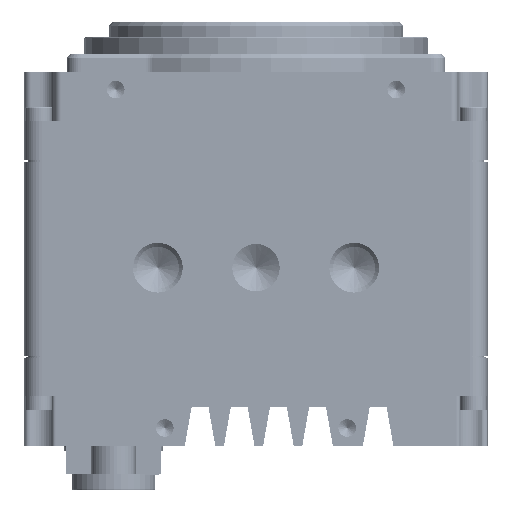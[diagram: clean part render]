
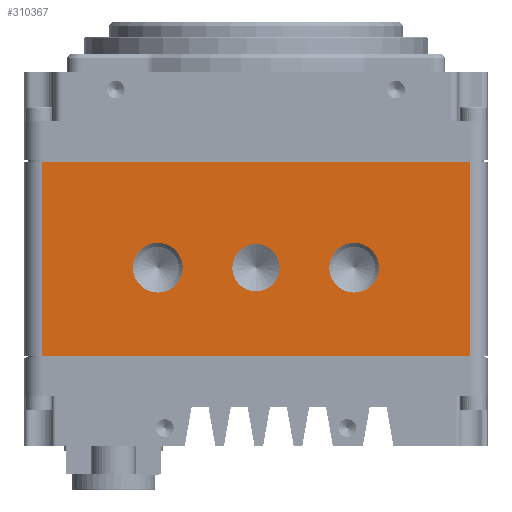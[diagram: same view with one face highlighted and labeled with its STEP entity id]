
A CAD part, front view. The second image highlights one B-rep face of the part: STEP entity #310367.
In plain terms, the highlighted planar face has unit normal (0, -1, 0).
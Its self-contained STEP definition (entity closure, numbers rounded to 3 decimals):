
#8811 = DIRECTION ( 'NONE',  ( 0., 0., 1. ) ) ;
#10139 = EDGE_CURVE ( 'NONE', #276829, #277318, #17703, .T. ) ;
#11131 = CARTESIAN_POINT ( 'NONE',  ( -14., -26.67, -15.24 ) ) ;
#13428 = DIRECTION ( 'NONE',  ( 1., 0., 0. ) ) ;
#17703 = CIRCLE ( 'NONE', #19151, 3.55 ) ;
#19002 = EDGE_CURVE ( 'NONE', #202375, #132121, #260963, .T. ) ;
#19151 = AXIS2_PLACEMENT_3D ( 'NONE', #306928, #32642, #227704 ) ;
#21692 = ORIENTED_EDGE ( 'NONE', *, *, #10139, .F. ) ;
#24123 = VERTEX_POINT ( 'NONE', #313765 ) ;
#27363 = CARTESIAN_POINT ( 'NONE',  ( 14., -26.67, -11.69 ) ) ;
#30823 = CARTESIAN_POINT ( 'NONE',  ( 30.48, -26.67, -27.813 ) ) ;
#32642 = DIRECTION ( 'NONE',  ( 0., -1., 0. ) ) ;
#37752 = DIRECTION ( 'NONE',  ( 0., 0., 1. ) ) ;
#46066 = AXIS2_PLACEMENT_3D ( 'NONE', #111986, #58115, #249665 ) ;
#47416 = LINE ( 'NONE', #293431, #111694 ) ;
#48804 = CARTESIAN_POINT ( 'NONE',  ( 0., -26.67, -15.24 ) ) ;
#52606 = EDGE_CURVE ( 'NONE', #311356, #261675, #205376, .T. ) ;
#57781 = ORIENTED_EDGE ( 'NONE', *, *, #66001, .F. ) ;
#58115 = DIRECTION ( 'NONE',  ( 0., 1., 0. ) ) ;
#64609 = CARTESIAN_POINT ( 'NONE',  ( 30.48, -26.67, -0.127 ) ) ;
#66001 = EDGE_CURVE ( 'NONE', #24123, #285633, #96417, .T. ) ;
#69644 = CARTESIAN_POINT ( 'NONE',  ( 30.48, -26.67, -0.127 ) ) ;
#74918 = FACE_OUTER_BOUND ( 'NONE', #264157, .T. ) ;
#82996 = ORIENTED_EDGE ( 'NONE', *, *, #277943, .F. ) ;
#84677 = DIRECTION ( 'NONE',  ( 1., 0., 0. ) ) ;
#93297 = ORIENTED_EDGE ( 'NONE', *, *, #19002, .F. ) ;
#95108 = EDGE_CURVE ( 'NONE', #261675, #176703, #316972, .T. ) ;
#96417 = CIRCLE ( 'NONE', #256004, 3.55 ) ;
#111694 = VECTOR ( 'NONE', #154379, 1000. ) ;
#111986 = CARTESIAN_POINT ( 'NONE',  ( 33.02, -26.67, -27.94 ) ) ;
#114876 = CARTESIAN_POINT ( 'NONE',  ( 0., -26.67, -11.862 ) ) ;
#117416 = ORIENTED_EDGE ( 'NONE', *, *, #150524, .T. ) ;
#117700 = EDGE_CURVE ( 'NONE', #222277, #176703, #193611, .T. ) ;
#120047 = DIRECTION ( 'NONE',  ( 0., -1., 0. ) ) ;
#121984 = FACE_BOUND ( 'NONE', #130666, .T. ) ;
#125487 = DIRECTION ( 'NONE',  ( 0., -1., 0. ) ) ;
#128134 = CARTESIAN_POINT ( 'NONE',  ( -30.48, -26.67, -27.813 ) ) ;
#130666 = EDGE_LOOP ( 'NONE', ( #194324, #93297 ) ) ;
#132121 = VERTEX_POINT ( 'NONE', #114876 ) ;
#142061 = VECTOR ( 'NONE', #13428, 1000. ) ;
#149897 = CARTESIAN_POINT ( 'NONE',  ( 30.48, -26.67, -27.94 ) ) ;
#150524 = EDGE_CURVE ( 'NONE', #222277, #311356, #47416, .T. ) ;
#154379 = DIRECTION ( 'NONE',  ( 0., 0., -1. ) ) ;
#167071 = AXIS2_PLACEMENT_3D ( 'NONE', #306106, #172944, #37752 ) ;
#172944 = DIRECTION ( 'NONE',  ( 0., -1., 0. ) ) ;
#176703 = VERTEX_POINT ( 'NONE', #64609 ) ;
#179029 = ORIENTED_EDGE ( 'NONE', *, *, #216381, .F. ) ;
#193611 = LINE ( 'NONE', #69644, #142061 ) ;
#194324 = ORIENTED_EDGE ( 'NONE', *, *, #291281, .F. ) ;
#194729 = EDGE_LOOP ( 'NONE', ( #21692, #179029 ) ) ;
#194837 = FACE_BOUND ( 'NONE', #194729, .T. ) ;
#202375 = VERTEX_POINT ( 'NONE', #211951 ) ;
#205376 = LINE ( 'NONE', #30823, #346834 ) ;
#209235 = DIRECTION ( 'NONE',  ( 0., -1., 0. ) ) ;
#211951 = CARTESIAN_POINT ( 'NONE',  ( 0., -26.67, -18.618 ) ) ;
#216381 = EDGE_CURVE ( 'NONE', #277318, #276829, #223832, .T. ) ;
#218946 = DIRECTION ( 'NONE',  ( 0., 0., 1. ) ) ;
#222277 = VERTEX_POINT ( 'NONE', #233844 ) ;
#223832 = CIRCLE ( 'NONE', #167071, 3.55 ) ;
#227704 = DIRECTION ( 'NONE',  ( 0., 0., 1. ) ) ;
#230944 = VECTOR ( 'NONE', #8811, 1000. ) ;
#231041 = CARTESIAN_POINT ( 'NONE',  ( 30.48, -26.67, -27.813 ) ) ;
#233844 = CARTESIAN_POINT ( 'NONE',  ( -30.48, -26.67, -0.127 ) ) ;
#246573 = DIRECTION ( 'NONE',  ( 0., -1., 0. ) ) ;
#248489 = PLANE ( 'NONE',  #46066 ) ;
#249665 = DIRECTION ( 'NONE',  ( 0., 0., -1. ) ) ;
#251042 = ORIENTED_EDGE ( 'NONE', *, *, #52606, .T. ) ;
#256004 = AXIS2_PLACEMENT_3D ( 'NONE', #265619, #125487, #317232 ) ;
#260963 = CIRCLE ( 'NONE', #329226, 3.378 ) ;
#261675 = VERTEX_POINT ( 'NONE', #231041 ) ;
#264157 = EDGE_LOOP ( 'NONE', ( #251042, #351252, #346752, #117416 ) ) ;
#265619 = CARTESIAN_POINT ( 'NONE',  ( -14., -26.67, -15.24 ) ) ;
#267752 = FACE_BOUND ( 'NONE', #314333, .T. ) ;
#276829 = VERTEX_POINT ( 'NONE', #27363 ) ;
#277318 = VERTEX_POINT ( 'NONE', #304939 ) ;
#277943 = EDGE_CURVE ( 'NONE', #285633, #24123, #329304, .T. ) ;
#285633 = VERTEX_POINT ( 'NONE', #355682 ) ;
#291281 = EDGE_CURVE ( 'NONE', #132121, #202375, #311622, .T. ) ;
#293166 = DIRECTION ( 'NONE',  ( 0., 0., 1. ) ) ;
#293431 = CARTESIAN_POINT ( 'NONE',  ( -30.48, -26.67, -27.94 ) ) ;
#304939 = CARTESIAN_POINT ( 'NONE',  ( 14., -26.67, -18.79 ) ) ;
#306106 = CARTESIAN_POINT ( 'NONE',  ( 14., -26.67, -15.24 ) ) ;
#306928 = CARTESIAN_POINT ( 'NONE',  ( 14., -26.67, -15.24 ) ) ;
#310367 = ADVANCED_FACE ( 'NONE', ( #267752, #194837, #121984, #74918 ), #248489, .F. ) ;
#311356 = VERTEX_POINT ( 'NONE', #128134 ) ;
#311622 = CIRCLE ( 'NONE', #344367, 3.378 ) ;
#313765 = CARTESIAN_POINT ( 'NONE',  ( -14., -26.67, -18.79 ) ) ;
#314333 = EDGE_LOOP ( 'NONE', ( #82996, #57781 ) ) ;
#316972 = LINE ( 'NONE', #149897, #230944 ) ;
#317232 = DIRECTION ( 'NONE',  ( 0., 0., 1. ) ) ;
#329226 = AXIS2_PLACEMENT_3D ( 'NONE', #48804, #209235, #293166 ) ;
#329304 = CIRCLE ( 'NONE', #331763, 3.55 ) ;
#331763 = AXIS2_PLACEMENT_3D ( 'NONE', #11131, #120047, #340534 ) ;
#340534 = DIRECTION ( 'NONE',  ( 0., 0., 1. ) ) ;
#344367 = AXIS2_PLACEMENT_3D ( 'NONE', #352121, #246573, #218946 ) ;
#346752 = ORIENTED_EDGE ( 'NONE', *, *, #117700, .F. ) ;
#346834 = VECTOR ( 'NONE', #84677, 1000. ) ;
#351252 = ORIENTED_EDGE ( 'NONE', *, *, #95108, .T. ) ;
#352121 = CARTESIAN_POINT ( 'NONE',  ( 0., -26.67, -15.24 ) ) ;
#355682 = CARTESIAN_POINT ( 'NONE',  ( -14., -26.67, -11.69 ) ) ;
